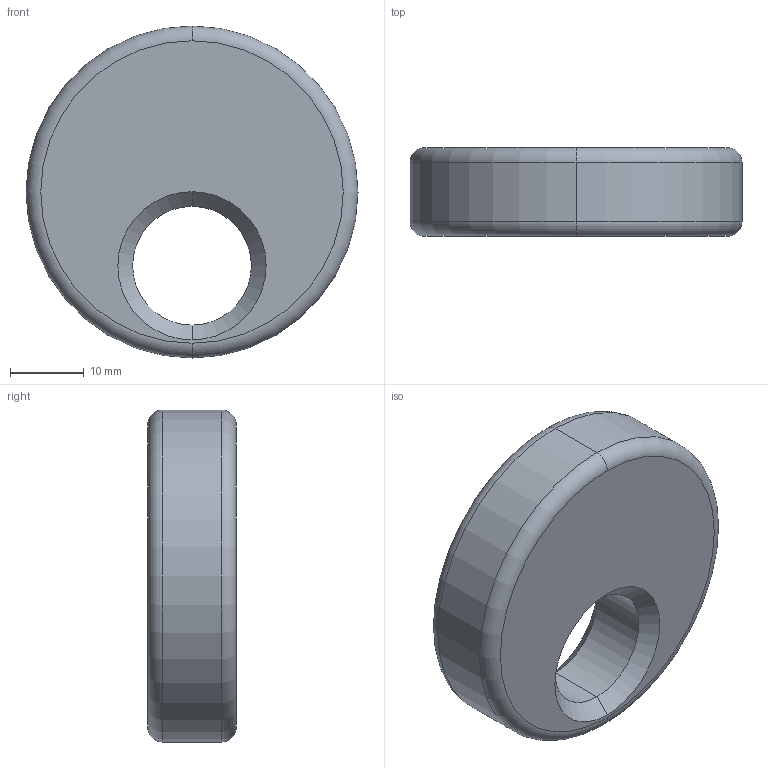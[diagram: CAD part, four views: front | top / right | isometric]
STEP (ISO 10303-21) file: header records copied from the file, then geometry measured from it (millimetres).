
FILE_DESCRIPTION (( 'STEP AP203' ), '1' );
FILE_NAME ('160401_45.step', '2014-08-11T15:59:13', ( 'User' ), ( '' ), 'SwSTEP 2.0', 'SolidWorks 2014', '' );
FILE_SCHEMA (( 'CONFIG_CONTROL_DESIGN' ));
Length unit declared in the file: millimetre
Products named in the file (1): 160401_45
Bounding box: 45 x 12 x 45 mm (x, y, z)
Volume: 16185.2 mm3; surface area: 4722.7 mm2
Topology: 1 solids, 1 shells, 14 faces, 28 edges, 16 vertices
Faces by surface type: torus 4, cone 4, cylinder 4, plane 2
Entity records: 449 total; most frequent: DIRECTION 78, CARTESIAN_POINT 59, ORIENTED_EDGE 56, AXIS2_PLACEMENT_3D 35, EDGE_CURVE 28, CIRCLE 20, VERTEX_POINT 16, EDGE_LOOP 16
